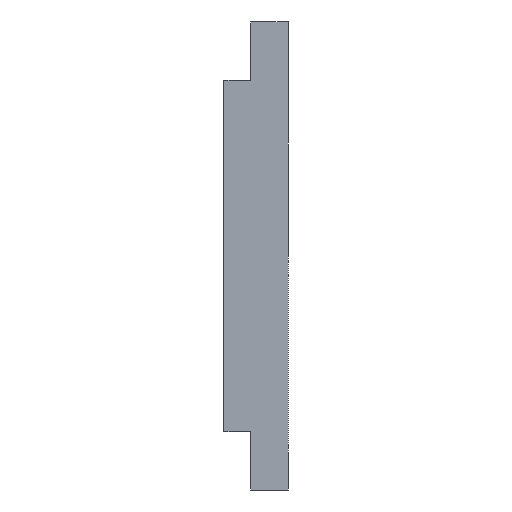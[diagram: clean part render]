
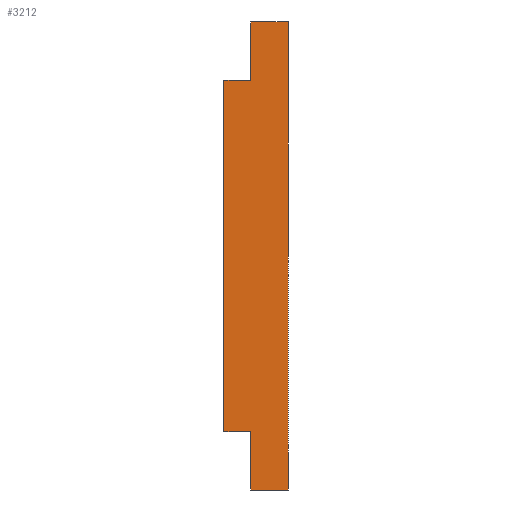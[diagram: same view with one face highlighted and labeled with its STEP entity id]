
A CAD part, left-side view. The second image highlights one B-rep face of the part: STEP entity #3212.
In plain terms, the highlighted planar face has unit normal (-1, 0, 0).
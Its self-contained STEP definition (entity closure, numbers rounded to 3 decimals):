
#115 = DIRECTION ( 'NONE',  ( 0., 0., -1. ) ) ;
#197 = EDGE_CURVE ( 'NONE', #4751, #3210, #3615, .T. ) ;
#229 = DIRECTION ( 'NONE',  ( 0., -1., 0. ) ) ;
#374 = EDGE_CURVE ( 'NONE', #3474, #1582, #4134, .T. ) ;
#382 = ORIENTED_EDGE ( 'NONE', *, *, #3739, .F. ) ;
#453 = LINE ( 'NONE', #2433, #689 ) ;
#458 = LINE ( 'NONE', #3316, #3200 ) ;
#495 = LINE ( 'NONE', #580, #4769 ) ;
#522 = CARTESIAN_POINT ( 'NONE',  ( -200., 0., 37.5 ) ) ;
#580 = CARTESIAN_POINT ( 'NONE',  ( -200., 6., 37.5 ) ) ;
#689 = VECTOR ( 'NONE', #1239, 1000. ) ;
#774 = DIRECTION ( 'NONE',  ( 0., 0., 1. ) ) ;
#920 = EDGE_CURVE ( 'NONE', #2226, #4751, #2805, .T. ) ;
#975 = CARTESIAN_POINT ( 'NONE',  ( -200., 6., -37.5 ) ) ;
#1216 = CARTESIAN_POINT ( 'NONE',  ( -200., 10.3, -28.2 ) ) ;
#1239 = DIRECTION ( 'NONE',  ( 0., -1., 0. ) ) ;
#1335 = CARTESIAN_POINT ( 'NONE',  ( -200., 6., 37.5 ) ) ;
#1554 = VECTOR ( 'NONE', #4383, 1000. ) ;
#1582 = VERTEX_POINT ( 'NONE', #4509 ) ;
#1703 = DIRECTION ( 'NONE',  ( 0., 0., 1. ) ) ;
#1895 = CARTESIAN_POINT ( 'NONE',  ( -200., 10.3, 28.2 ) ) ;
#2101 = ORIENTED_EDGE ( 'NONE', *, *, #920, .F. ) ;
#2145 = VERTEX_POINT ( 'NONE', #3063 ) ;
#2226 = VERTEX_POINT ( 'NONE', #1216 ) ;
#2290 = VERTEX_POINT ( 'NONE', #3535 ) ;
#2330 = DIRECTION ( 'NONE',  ( 1., 0., 0. ) ) ;
#2433 = CARTESIAN_POINT ( 'NONE',  ( -200., 10.3, -28.2 ) ) ;
#2489 = VECTOR ( 'NONE', #229, 1000. ) ;
#2574 = ORIENTED_EDGE ( 'NONE', *, *, #4727, .T. ) ;
#2805 = LINE ( 'NONE', #1895, #3792 ) ;
#3041 = CARTESIAN_POINT ( 'NONE',  ( -200., 0., 37.5 ) ) ;
#3063 = CARTESIAN_POINT ( 'NONE',  ( -200., 6., 37.5 ) ) ;
#3154 = DIRECTION ( 'NONE',  ( 0., -1., 0. ) ) ;
#3200 = VECTOR ( 'NONE', #4414, 1000. ) ;
#3210 = VERTEX_POINT ( 'NONE', #3861 ) ;
#3212 = ADVANCED_FACE ( 'NONE', ( #3452 ), #3834, .F. ) ;
#3252 = LINE ( 'NONE', #1335, #3767 ) ;
#3267 = ORIENTED_EDGE ( 'NONE', *, *, #374, .T. ) ;
#3316 = CARTESIAN_POINT ( 'NONE',  ( -200., 6., 37.5 ) ) ;
#3347 = ORIENTED_EDGE ( 'NONE', *, *, #197, .F. ) ;
#3452 = FACE_OUTER_BOUND ( 'NONE', #3576, .T. ) ;
#3474 = VERTEX_POINT ( 'NONE', #4203 ) ;
#3476 = VECTOR ( 'NONE', #4580, 1000. ) ;
#3487 = EDGE_CURVE ( 'NONE', #1582, #3536, #4013, .T. ) ;
#3503 = ORIENTED_EDGE ( 'NONE', *, *, #4221, .F. ) ;
#3535 = CARTESIAN_POINT ( 'NONE',  ( -200., 6., -28.2 ) ) ;
#3536 = VERTEX_POINT ( 'NONE', #522 ) ;
#3576 = EDGE_LOOP ( 'NONE', ( #4520, #3989, #382, #3347, #2101, #2574, #3503, #3267 ) ) ;
#3615 = LINE ( 'NONE', #4364, #1554 ) ;
#3662 = EDGE_CURVE ( 'NONE', #2145, #3536, #495, .T. ) ;
#3739 = EDGE_CURVE ( 'NONE', #3210, #2145, #3252, .T. ) ;
#3767 = VECTOR ( 'NONE', #1703, 1000. ) ;
#3792 = VECTOR ( 'NONE', #774, 1000. ) ;
#3834 = PLANE ( 'NONE',  #4059 ) ;
#3861 = CARTESIAN_POINT ( 'NONE',  ( -200., 6., 28.2 ) ) ;
#3989 = ORIENTED_EDGE ( 'NONE', *, *, #3662, .F. ) ;
#4013 = LINE ( 'NONE', #3041, #3476 ) ;
#4059 = AXIS2_PLACEMENT_3D ( 'NONE', #4601, #2330, #115 ) ;
#4134 = LINE ( 'NONE', #975, #2489 ) ;
#4203 = CARTESIAN_POINT ( 'NONE',  ( -200., 6., -37.5 ) ) ;
#4221 = EDGE_CURVE ( 'NONE', #3474, #2290, #458, .T. ) ;
#4364 = CARTESIAN_POINT ( 'NONE',  ( -200., 10.3, 28.2 ) ) ;
#4383 = DIRECTION ( 'NONE',  ( 0., -1., 0. ) ) ;
#4414 = DIRECTION ( 'NONE',  ( 0., 0., 1. ) ) ;
#4509 = CARTESIAN_POINT ( 'NONE',  ( -200., 0., -37.5 ) ) ;
#4520 = ORIENTED_EDGE ( 'NONE', *, *, #3487, .T. ) ;
#4580 = DIRECTION ( 'NONE',  ( 0., 0., 1. ) ) ;
#4601 = CARTESIAN_POINT ( 'NONE',  ( -200., 6., 37.5 ) ) ;
#4683 = CARTESIAN_POINT ( 'NONE',  ( -200., 10.3, 28.2 ) ) ;
#4727 = EDGE_CURVE ( 'NONE', #2226, #2290, #453, .T. ) ;
#4751 = VERTEX_POINT ( 'NONE', #4683 ) ;
#4769 = VECTOR ( 'NONE', #3154, 1000. ) ;
